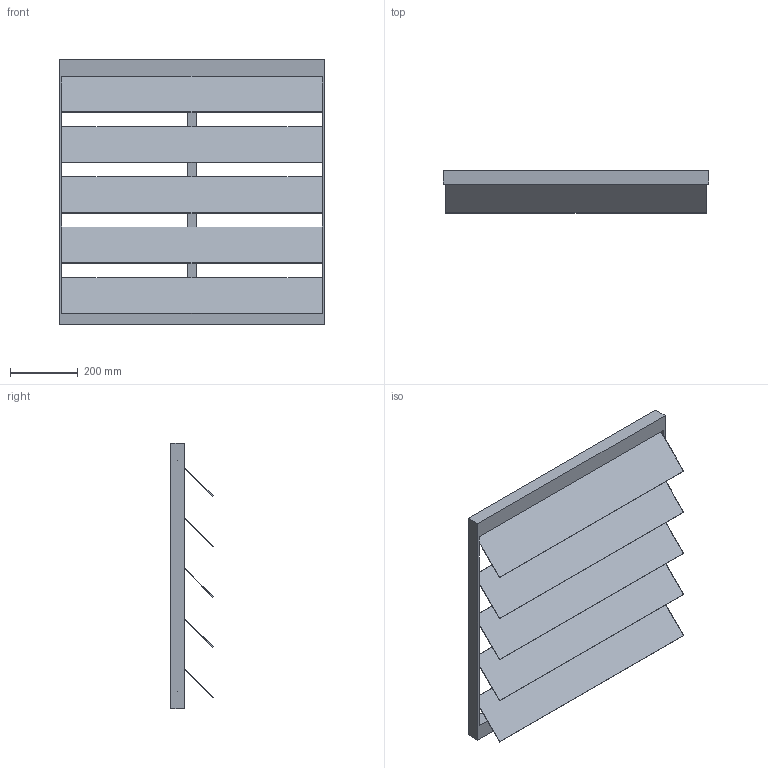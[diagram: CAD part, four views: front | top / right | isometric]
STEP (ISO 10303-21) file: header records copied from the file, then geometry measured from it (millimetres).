
FILE_DESCRIPTION(/* description */ (''),/* implementation_level */ '2;1');
FILE_NAME(/* name */ 'Z:\Output\VK_710-00838-001.stp',/* time_stamp */ '2017-09-29T10:20:34+02:00',/* author */ ('pareshmistry'),/* organization */ (''),/* preprocessor_version */ 'ST-DEVELOPER v16.5',/* originating_system */ 'Autodesk Inventor 2017',/* authorisation */ '');
FILE_SCHEMA (('AUTOMOTIVE_DESIGN { 1 0 10303 214 3 1 1 }'));
Length unit declared in the file: millimetre
Products named in the file (1): VK-1
Bounding box: 785 x 125.36 x 785 mm (x, y, z)
Volume: 5029655.7 mm3; surface area: 1647500.8 mm2
Topology: 1 solids, 1 shells, 76 faces, 249 edges, 150 vertices
Faces by surface type: plane 68, cylinder 8
Full cylindrical faces by diameter (mm): 8 x4
Entity records: 2701 total; most frequent: ORIENTED_EDGE 494, CARTESIAN_POINT 468, DIRECTION 425, EDGE_CURVE 243, LINE 215, VECTOR 215, VERTEX_POINT 148, AXIS2_PLACEMENT_3D 105
